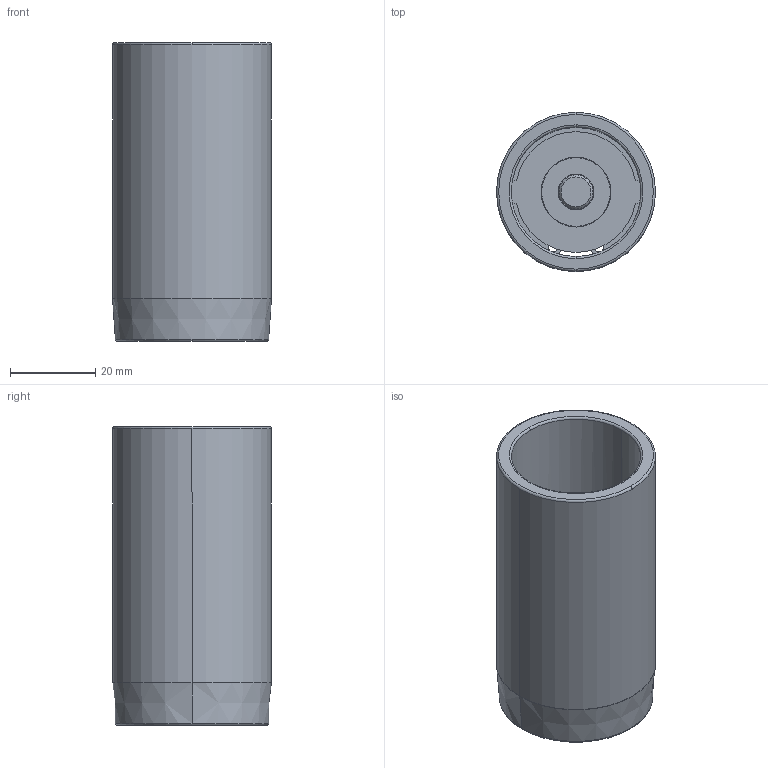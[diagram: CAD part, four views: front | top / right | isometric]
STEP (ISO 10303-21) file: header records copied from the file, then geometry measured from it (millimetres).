
FILE_DESCRIPTION((''),'2;1');
FILE_NAME('C12_030_070.stp','2009-01-28T08:35:12',(''),(''),'Mechanical Desktop 2009','Mechanical Desktop 2009',', , ');
FILE_SCHEMA(('CONFIG_CONTROL_DESIGN'));
Length unit declared in the file: millimetre
Products named in the file (2): Product; blmdl1
Assembly tree (1 placements, depth 2):
  Product
    blmdl1
Bounding box: 37.25 x 37.25 x 70 mm (x, y, z)
Volume: 28618.1 mm3; surface area: 19758.8 mm2
Topology: 5 solids, 5 shells, 79 faces, 200 edges, 134 vertices
Faces by surface type: cylinder 34, plane 29, torus 10, cone 6
Entity records: 2585 total; most frequent: DIRECTION 480, CARTESIAN_POINT 435, ORIENTED_EDGE 400, AXIS2_PLACEMENT_3D 203, EDGE_CURVE 200, VERTEX_POINT 134, CIRCLE 122, EDGE_LOOP 92
